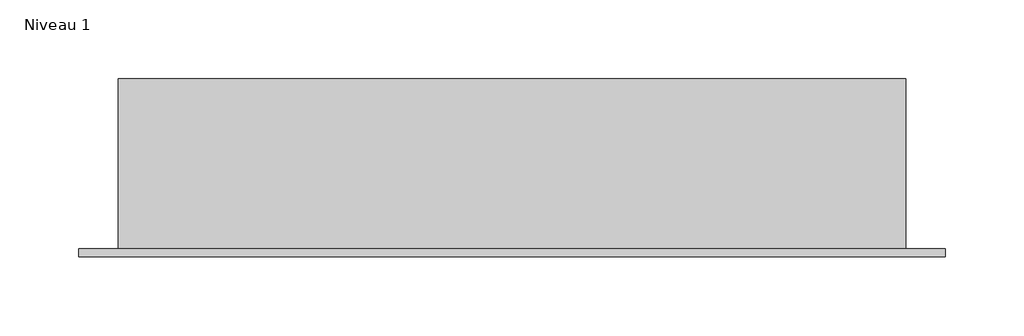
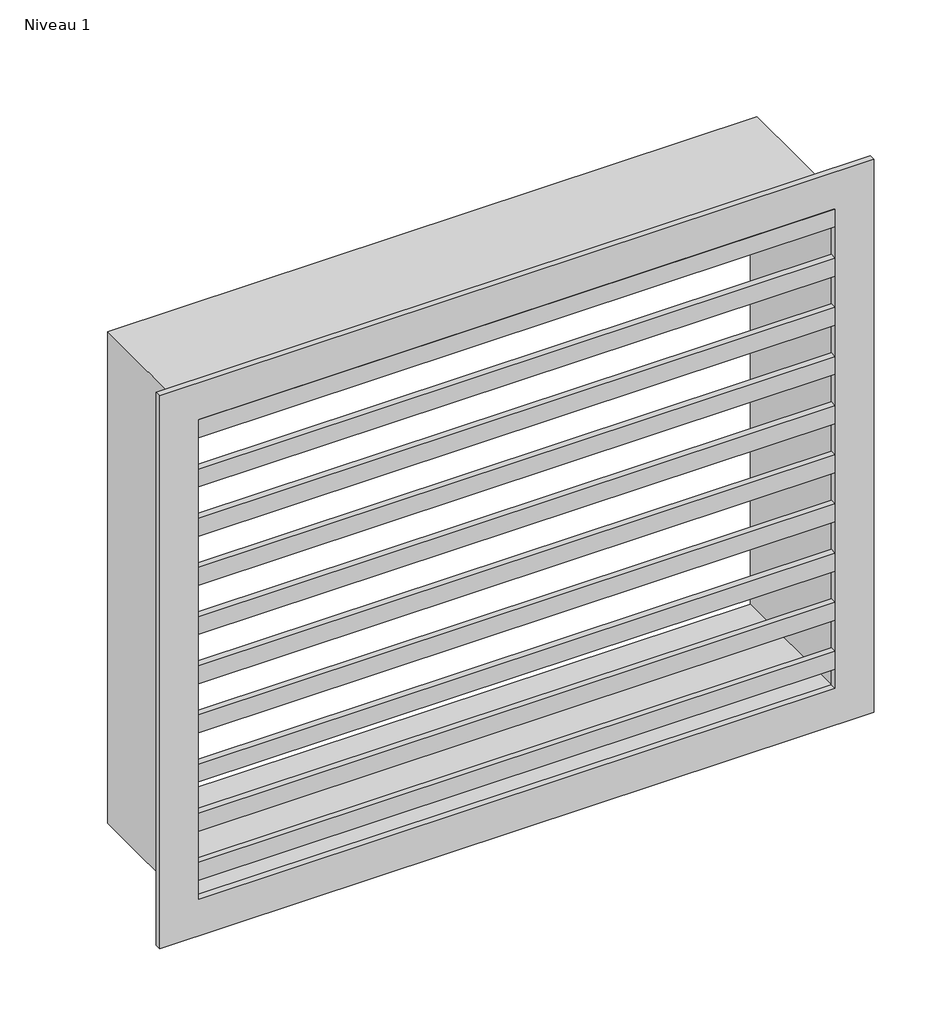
# One storey: 1 air terminal.
"""IFC4 building model written with IfcOpenShell, lengths in millimetres."""

from ifc_helpers import new_model, si_unit, origin, place, context, project, spatial, transform, mapped, element, save
from components import air_terminal_ef775b05

model = new_model("IFC4")

# Units and contexts
model_context = context("Model", 3, world=origin())
ifc_project = project(units=[si_unit("LENGTHUNIT", "METRE", prefix="MILLI")], contexts=[model_context])

# Site, building, storey
site = spatial("IfcSite", under=ifc_project)
building = spatial("IfcBuilding", under=site)
storey = spatial("IfcBuildingStorey", under=building, Name="Niveau 1", Elevation=3000.0)

# Air terminal
placement = place(None, origin())
air_terminal_shape = air_terminal_ef775b05(model_context)
element("IfcAirTerminal", 1, ObjectType="Grille Entrée d'air Chaufferie : THIS IS A TYPE CATALOG FAMILY", at=placement, inside=storey, context=model_context, shape_type="MappedRepresentation", body=[
    mapped(air_terminal_shape, transform((-13262.9334121, 10151.4705462, 2722.5404198), x_axis=(0.0, -1.0000000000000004, 0.0), y_axis=(1.0000000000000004, 0.0, 0.0), z_axis=(0.0, 0.0, 1.0))),
])

save(model, "model.ifc")
